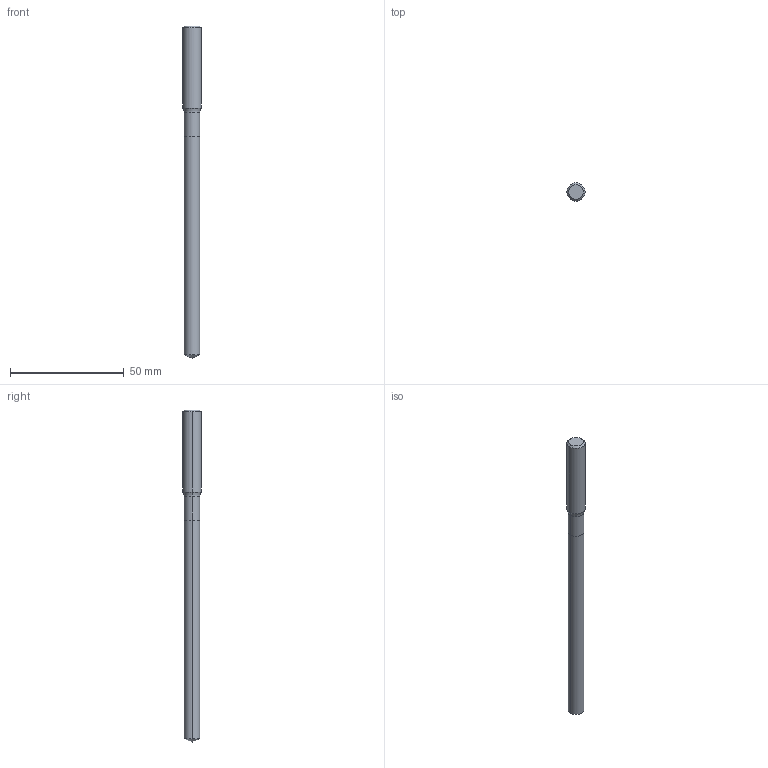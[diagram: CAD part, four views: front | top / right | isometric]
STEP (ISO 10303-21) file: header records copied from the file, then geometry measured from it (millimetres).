
FILE_DESCRIPTION (( 'STEP AP214' ), '1' );
FILE_NAME ('710.070.00_3D-model.step', '2022-02-22T04:39:37', ( '' ), ( '' ), 'SwSTEP 2.0', 'SolidWorks 2020', '' );
FILE_SCHEMA (( 'AUTOMOTIVE_DESIGN' ));
Length unit declared in the file: millimetre
Products named in the file (3): CUT-3D^Baugr154; 710.070.00_3D-model; NOCUT-3D^Baugr154
Assembly tree (2 placements, depth 2):
  710.070.00_3D-model
    CUT-3D^Baugr154
    NOCUT-3D^Baugr154
Bounding box: 8 x 8 x 146 mm (x, y, z)
Volume: 6006.1 mm3; surface area: 3452.4 mm2
Topology: 2 solids, 2 shells, 15 faces, 28 edges, 15 vertices
Faces by surface type: cylinder 6, cone 4, plane 3, torus 2
Entity records: 482 total; most frequent: DIRECTION 88, CARTESIAN_POINT 64, ORIENTED_EDGE 52, AXIS2_PLACEMENT_3D 39, EDGE_CURVE 26, CIRCLE 16, FACE_OUTER_BOUND 15, ADVANCED_FACE 15
